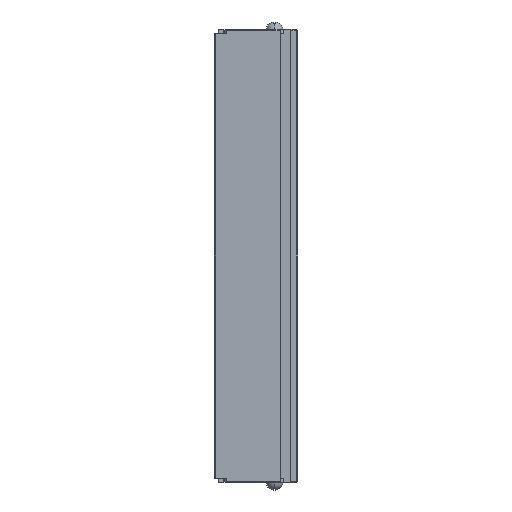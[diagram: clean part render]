
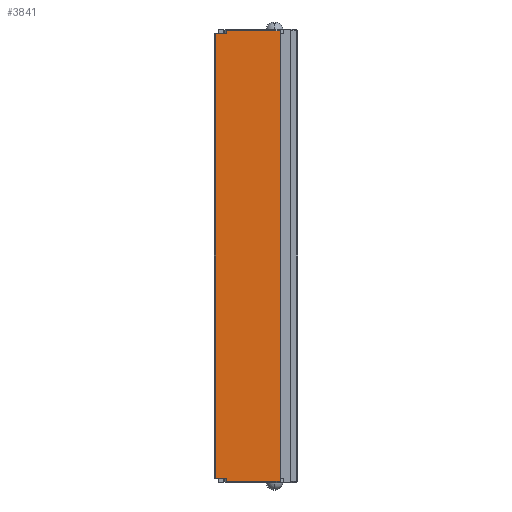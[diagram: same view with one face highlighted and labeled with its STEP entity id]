
A CAD part, left-side view. The second image highlights one B-rep face of the part: STEP entity #3841.
In plain terms, the highlighted planar face has unit normal (-1, 0, 0).
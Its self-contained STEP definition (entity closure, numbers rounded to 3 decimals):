
#1011=DIRECTION('',(0.,1.,0.));
#1012=VECTOR('',#1011,3.303);
#1013=CARTESIAN_POINT('',(-14.,13.197,72.));
#1014=LINE('',#1013,#1012);
#1167=DIRECTION('',(0.,0.,1.));
#1168=VECTOR('',#1167,1.);
#1169=CARTESIAN_POINT('',(-14.,13.197,-73.));
#1170=LINE('',#1169,#1168);
#1171=DIRECTION('',(0.,1.,0.));
#1172=VECTOR('',#1171,3.303);
#1173=CARTESIAN_POINT('',(-14.,13.197,-72.));
#1174=LINE('',#1173,#1172);
#1175=DIRECTION('',(0.,0.,1.));
#1176=VECTOR('',#1175,1.);
#1177=CARTESIAN_POINT('',(-14.,13.197,72.));
#1178=LINE('',#1177,#1176);
#1183=DIRECTION('',(0.,0.,1.));
#1184=VECTOR('',#1183,146.);
#1185=CARTESIAN_POINT('',(-14.,-4.3,-73.));
#1186=LINE('',#1185,#1184);
#1613=DIRECTION('',(0.,-1.,0.));
#1614=VECTOR('',#1613,17.497);
#1615=CARTESIAN_POINT('',(-14.,13.197,-73.));
#1616=LINE('',#1615,#1614);
#1633=DIRECTION('',(0.,1.,0.));
#1634=VECTOR('',#1633,17.497);
#1635=CARTESIAN_POINT('',(-14.,-4.3,73.));
#1636=LINE('',#1635,#1634);
#1637=DIRECTION('',(0.,0.,-1.));
#1638=VECTOR('',#1637,144.);
#1639=CARTESIAN_POINT('',(-14.,16.5,72.));
#1640=LINE('',#1639,#1638);
#1811=CARTESIAN_POINT('',(-14.,16.5,-72.));
#1812=VERTEX_POINT('',#1811);
#1821=CARTESIAN_POINT('',(-14.,16.5,72.));
#1822=VERTEX_POINT('',#1821);
#2027=CARTESIAN_POINT('',(-14.,13.197,73.));
#2028=VERTEX_POINT('',#2027);
#2053=CARTESIAN_POINT('',(-14.,-4.3,73.));
#2054=VERTEX_POINT('',#2053);
#2099=CARTESIAN_POINT('',(-14.,13.197,72.));
#2101=VERTEX_POINT('',#2099);
#2247=CARTESIAN_POINT('',(-14.,13.197,-73.));
#2248=VERTEX_POINT('',#2247);
#2249=CARTESIAN_POINT('',(-14.,-4.3,-73.));
#2250=VERTEX_POINT('',#2249);
#2285=CARTESIAN_POINT('',(-14.,13.197,-72.));
#2286=VERTEX_POINT('',#2285);
#3821=CARTESIAN_POINT('',(-14.,16.5,-72.));
#3822=DIRECTION('',(-1.,0.,0.));
#3823=DIRECTION('',(0.,-1.,0.));
#3824=AXIS2_PLACEMENT_3D('',#3821,#3822,#3823);
#3825=PLANE('',#3824);
#3827=ORIENTED_EDGE('',*,*,#3826,.F.);
#3829=ORIENTED_EDGE('',*,*,#3828,.F.);
#3831=ORIENTED_EDGE('',*,*,#3830,.T.);
#3832=ORIENTED_EDGE('',*,*,#2422,.T.);
#3834=ORIENTED_EDGE('',*,*,#3833,.F.);
#3835=ORIENTED_EDGE('',*,*,#3592,.F.);
#3836=ORIENTED_EDGE('',*,*,#3545,.T.);
#3838=ORIENTED_EDGE('',*,*,#3837,.F.);
#3839=EDGE_LOOP('',(#3827,#3829,#3831,#3832,#3834,#3835,#3836,#3838));
#3840=FACE_OUTER_BOUND('',#3839,.F.);
#2422=EDGE_CURVE('',#2286,#1812,#1174,.T.);
#3545=EDGE_CURVE('',#2101,#2028,#1178,.T.);
#3592=EDGE_CURVE('',#2101,#1822,#1014,.T.);
#3826=EDGE_CURVE('',#2250,#2054,#1186,.T.);
#3828=EDGE_CURVE('',#2248,#2250,#1616,.T.);
#3830=EDGE_CURVE('',#2248,#2286,#1170,.T.);
#3833=EDGE_CURVE('',#1822,#1812,#1640,.T.);
#3837=EDGE_CURVE('',#2054,#2028,#1636,.T.);
#3841=ADVANCED_FACE('',(#3840),#3825,.T.);
